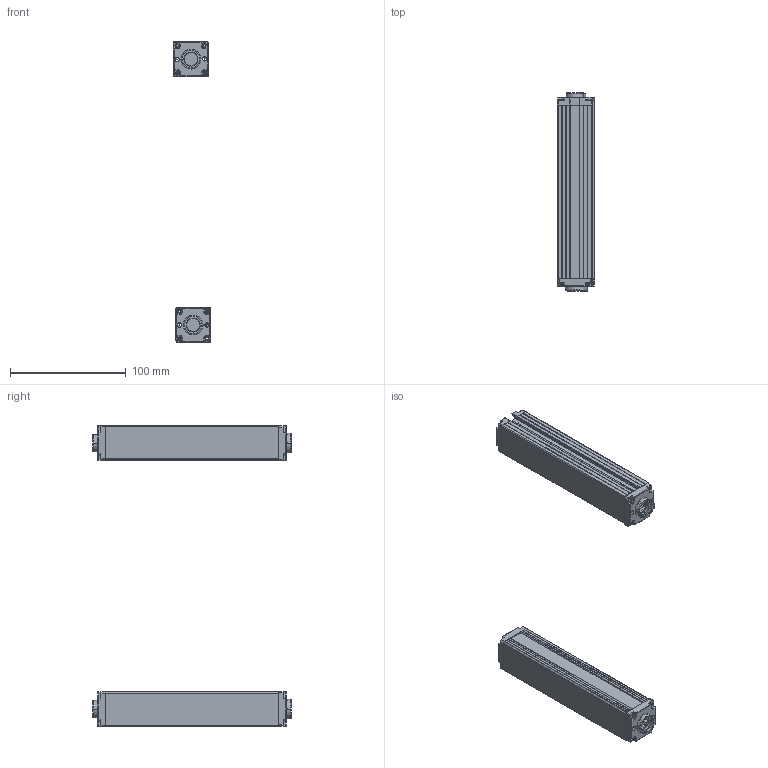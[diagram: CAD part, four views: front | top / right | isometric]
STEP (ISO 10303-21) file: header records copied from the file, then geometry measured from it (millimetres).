
FILE_DESCRIPTION (( 'STEP AP203' ), '1' );
FILE_NAME ('ZDA0440-150.STEP', '2022-08-30T07:36:17', ( 'Windows 蚚誧' ), ( 'Organization' ), 'SwSTEP 2.0', 'SolidWorks 2020', '' );
FILE_SCHEMA (( 'CONFIG_CONTROL_DESIGN' ));
Length unit declared in the file: millimetre
Products named in the file (5): 錨璃8; 錨璃8 - 萵掛 (2); 錨璃10; ZDA0440-150; 錨璃1
Assembly tree (8 placements, depth 2):
  ZDA0440-150
    錨璃1  x2
    錨璃8  x2
    錨璃8 - 萵掛 (2)  x2
    錨璃10  x2
Bounding box: 32.36 x 171.4 x 260.35 mm (x, y, z)
Volume: 105247.3 mm3; surface area: 114274.7 mm2
Topology: 8 solids, 8 shells, 1032 faces, 2690 edges, 1668 vertices
Faces by surface type: plane 464, cylinder 310, cone 120, bspline 58, torus 48, sphere 32
Entity records: 17901 total; most frequent: CARTESIAN_POINT 4731, ORIENTED_EDGE 2666, DIRECTION 2616, EDGE_CURVE 1333, AXIS2_PLACEMENT_3D 894, VERTEX_POINT 834, VECTOR 828, LINE 828
